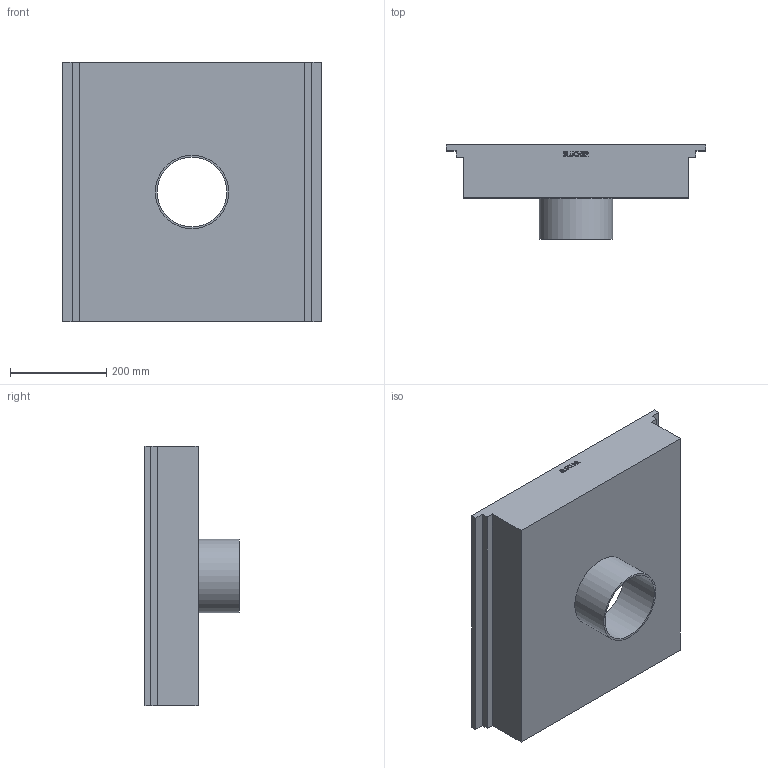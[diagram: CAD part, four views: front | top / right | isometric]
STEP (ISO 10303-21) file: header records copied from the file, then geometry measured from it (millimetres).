
FILE_DESCRIPTION((''),'2;1');
FILE_NAME('I:\WATTS\3D_CAD\3D_CAD_Models\Blucher_Drains\BKC_KitchenChannels\BKC-300\WebsiteFiles\3D\STEP\BKC-306-4.stp','2009-11-30T09:10:01',('menesek'),(''),'Autodesk Inventor 2010','Autodesk Inventor 2010','');
FILE_SCHEMA(('AUTOMOTIVE_DESIGN { 1 0 10303 214 1 1 1 1 }'));
Length unit declared in the file: inch
Products named in the file (1): BKC-306-4
Bounding box: 537 x 195 x 537 mm (x, y, z)
Volume: 3845967 mm3; surface area: 1052525 mm2
Topology: 1 solids, 1 shells, 142 faces, 385 edges, 257 vertices
Faces by surface type: plane 95, bspline 45, cylinder 2
Full cylindrical faces by diameter (mm): 144.4 x1, 152.4 x1
Entity records: 4799 total; most frequent: CARTESIAN_POINT 1501, ORIENTED_EDGE 764, DIRECTION 492, EDGE_CURVE 382, VECTOR 288, LINE 288, VERTEX_POINT 256, EDGE_LOOP 158
